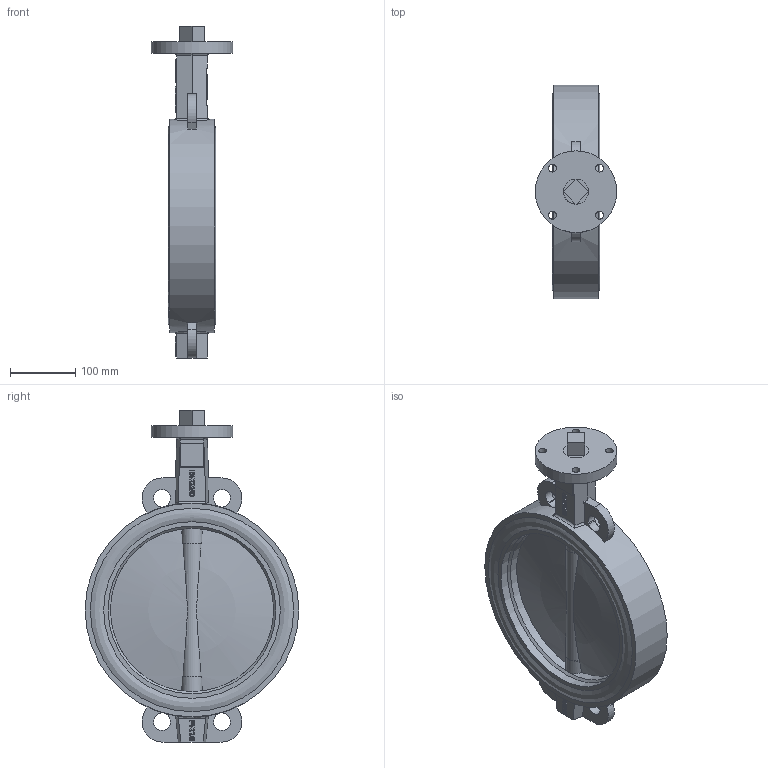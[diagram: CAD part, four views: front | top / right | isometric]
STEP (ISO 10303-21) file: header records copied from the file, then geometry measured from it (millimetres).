
FILE_DESCRIPTION(('STEP AP242'), '1');
FILE_NAME('Ïîâîðîòíûé çàòâîð ïîä ýëåêòðîïðèâîä', '', ('UNSPECIFIED'), ('UNSPECIFIED'), 'C3D Converter', 'C3D Toolkit', '');
FILE_SCHEMA(('AP242_MANAGED_MODEL_BASED_3D_ENGINEERING_MIM_LF { 1 0 10303 442 1 1 4 }'));
Length unit declared in the file: millimetre
Products named in the file (6): П
Assembly tree (6 placements, depth 2):
  (unnamed)
    (unnamed)
    П  x2
    (unnamed)
    (unnamed)
    (unnamed)
Bounding box: 125 x 327 x 508 mm (x, y, z)
Volume: 3832936.2 mm3; surface area: 692163 mm2
Topology: 6 solids, 6 shells, 426 faces, 1140 edges, 750 vertices
Faces by surface type: plane 196, extrusion 151, cylinder 57, bspline 8, torus 6, cone 4, sphere 4
Full cylindrical faces by diameter (mm): 11.421 x1, 12 x4, 27 x6, 32.11 x4, 38.184 x5, 125 x1, 250 x1, 256.76 x2, 270.28 x2, 290.753 x4, 311.227 x4, 327 x1
Entity records: 18609 total; most frequent: CARTESIAN_POINT 6427, ORIENTED_EDGE 2180, DIRECTION 1542, EDGE_CURVE 1090, VERTEX_POINT 745, VECTOR 716, LINE 565, EDGE_LOOP 519
